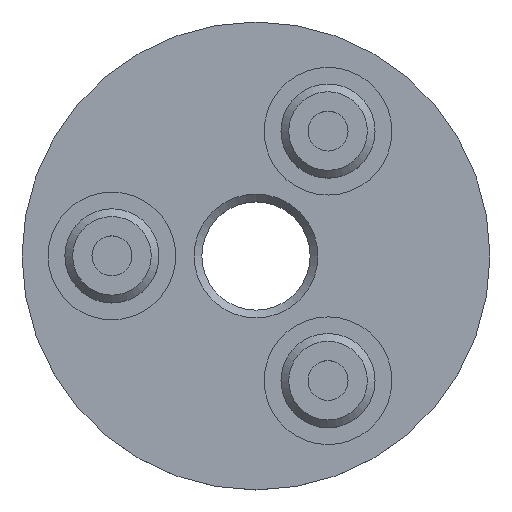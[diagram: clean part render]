
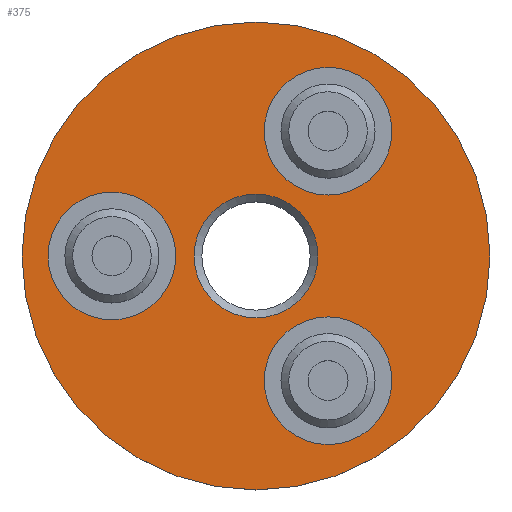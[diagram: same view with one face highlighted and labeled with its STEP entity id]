
A CAD part, top view. The second image highlights one B-rep face of the part: STEP entity #375.
In plain terms, the highlighted planar face has unit normal (0, 0, 1).
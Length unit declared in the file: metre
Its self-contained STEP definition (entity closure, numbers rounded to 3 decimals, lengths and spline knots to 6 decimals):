
#41=ORIENTED_EDGE('',*,*,#113,.F.);
#42=ORIENTED_EDGE('',*,*,#114,.F.);
#43=ORIENTED_EDGE('',*,*,#115,.F.);
#44=ORIENTED_EDGE('',*,*,#116,.T.);
#45=ORIENTED_EDGE('',*,*,#111,.T.);
#111=EDGE_CURVE('',#147,#147,#183,.T.);
#113=EDGE_CURVE('',#149,#149,#185,.T.);
#114=EDGE_CURVE('',#150,#150,#186,.T.);
#115=EDGE_CURVE('',#151,#151,#187,.T.);
#116=EDGE_CURVE('',#152,#152,#188,.F.);
#147=VERTEX_POINT('',#656);
#149=VERTEX_POINT('',#661);
#150=VERTEX_POINT('',#663);
#151=VERTEX_POINT('',#665);
#152=VERTEX_POINT('',#667);
#183=CIRCLE('',#430,0.024003);
#185=CIRCLE('',#433,0.006548);
#186=CIRCLE('',#434,0.006548);
#187=CIRCLE('',#435,0.006548);
#188=CIRCLE('',#436,0.00635);
#221=EDGE_LOOP('',(#41));
#222=EDGE_LOOP('',(#42));
#223=EDGE_LOOP('',(#43));
#224=EDGE_LOOP('',(#44));
#225=EDGE_LOOP('',(#45));
#293=FACE_BOUND('',#221,.T.);
#294=FACE_BOUND('',#222,.T.);
#295=FACE_BOUND('',#223,.T.);
#296=FACE_BOUND('',#224,.T.);
#297=FACE_BOUND('',#225,.T.);
#358=PLANE('',#432);
#375=ADVANCED_FACE('',(#293,#294,#295,#296,#297),#358,.T.);
#430=AXIS2_PLACEMENT_3D('',#655,#513,#514);
#432=AXIS2_PLACEMENT_3D('',#659,#517,#518);
#433=AXIS2_PLACEMENT_3D('',#660,#519,#520);
#434=AXIS2_PLACEMENT_3D('',#662,#521,#522);
#435=AXIS2_PLACEMENT_3D('',#664,#523,#524);
#436=AXIS2_PLACEMENT_3D('',#666,#525,#526);
#513=DIRECTION('',(0.,0.,1.));
#514=DIRECTION('',(1.,0.,0.));
#517=DIRECTION('',(0.,0.,1.));
#518=DIRECTION('',(1.,0.,0.));
#519=DIRECTION('',(0.,0.,1.));
#520=DIRECTION('',(1.,0.,0.));
#521=DIRECTION('',(0.,0.,1.));
#522=DIRECTION('',(1.,0.,0.));
#523=DIRECTION('',(0.,0.,1.));
#524=DIRECTION('',(1.,0.,0.));
#525=DIRECTION('',(0.,0.,1.));
#526=DIRECTION('',(1.,0.,0.));
#655=CARTESIAN_POINT('',(0.,0.,0.046512));
#656=CARTESIAN_POINT('',(0.024003,0.,0.046512));
#659=CARTESIAN_POINT('',(0.,0.,0.046512));
#660=CARTESIAN_POINT('',(-0.014778,0.,0.046512));
#661=CARTESIAN_POINT('',(-0.00823,0.,0.046512));
#662=CARTESIAN_POINT('',(0.007389,-0.012798,0.046512));
#663=CARTESIAN_POINT('',(0.013938,-0.012798,0.046512));
#664=CARTESIAN_POINT('',(0.007389,0.012798,0.046512));
#665=CARTESIAN_POINT('',(0.013938,0.012798,0.046512));
#666=CARTESIAN_POINT('',(0.,0.,0.046512));
#667=CARTESIAN_POINT('',(0.00635,0.,0.046512));
